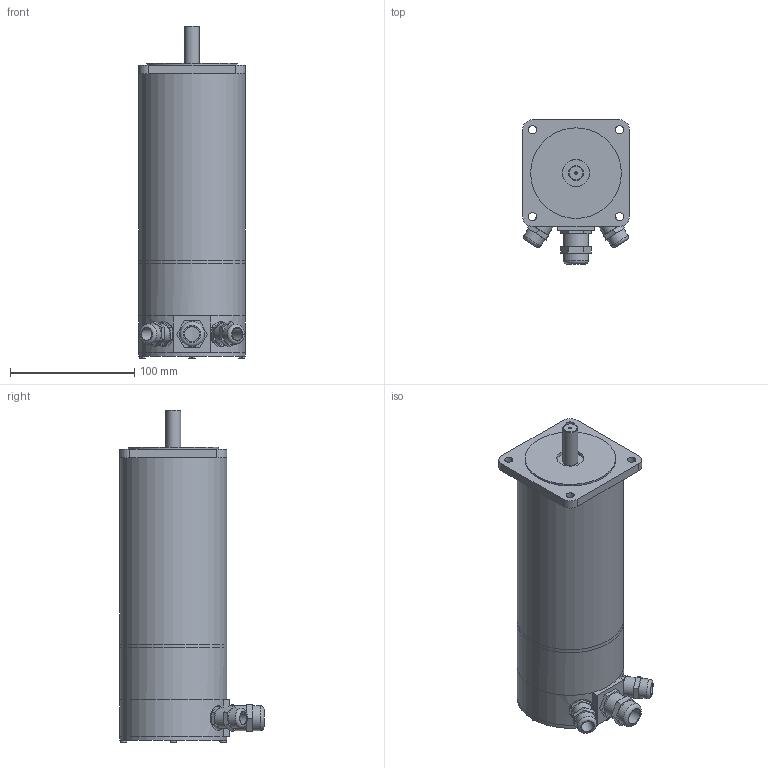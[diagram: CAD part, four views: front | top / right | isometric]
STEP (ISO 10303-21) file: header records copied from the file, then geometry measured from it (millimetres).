
FILE_DESCRIPTION((''),'2;1');
FILE_NAME('C:\Users\Reinhard\Documents\Inventor\Testschrittmotor\SM88\SM88.4-BE50-KV.stp','2012-11-12T20:44:12',('Reinhard'),(''),'Autodesk Inventor 2012','Autodesk Inventor 2012','');
FILE_SCHEMA(('CONFIG_CONTROL_DESIGN'));
Length unit declared in the file: millimetre
Products named in the file (1): SM88
Bounding box: 86 x 115.99 x 267.4 mm (x, y, z)
Volume: 238349.1 mm3; surface area: 167326.5 mm2
Topology: 2 solids, 3 shells, 171 faces, 385 edges, 252 vertices
Faces by surface type: plane 106, cylinder 57, cone 3, torus 3, sphere 2
Full cylindrical faces by diameter (mm): 2 x1, 5 x4, 6.6 x4, 10 x2, 12 x4, 13 x2, 15 x1, 16 x4, 18.376 x1, 20 x3, 22 x1, 73 x1, 78 x2, 82 x2, 86 x4
Entity records: 4680 total; most frequent: CARTESIAN_POINT 936, DIRECTION 784, ORIENTED_EDGE 664, EDGE_CURVE 332, AXIS2_PLACEMENT_3D 298, EDGE_LOOP 261, VERTEX_POINT 241, VECTOR 188
